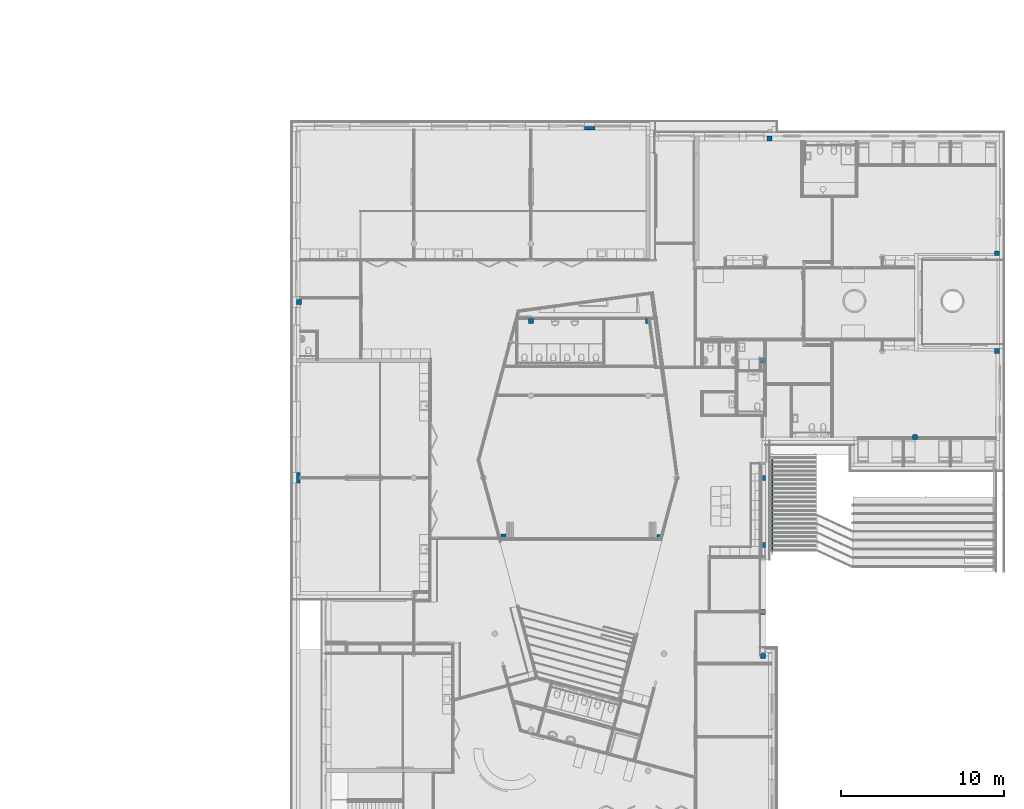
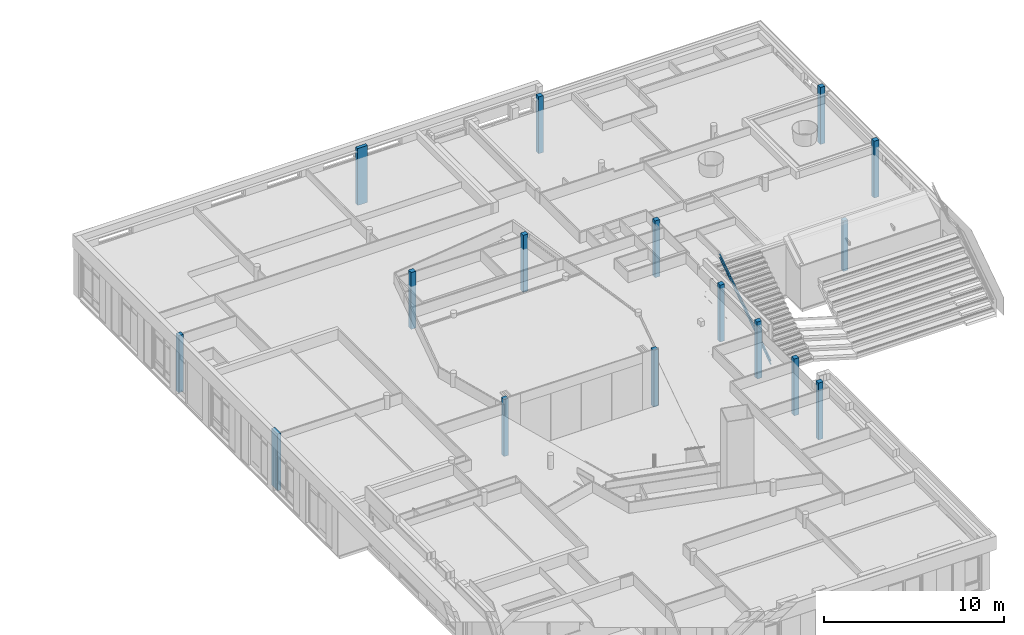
# One storey, part 1 of 167: 16 columns, 2 members, 2 elements without a shape of their own.
"""IFC2X3 building model written with IfcOpenShell, lengths in millimetres."""

from ifc_helpers import new_model, entity, si_unit, converted_unit, derived_unit, money_unit, direction, frame, origin_with_axes, place, context, subcontext, project, spatial, faceted_brep, source, transform, mapped, material, type_object, type_shapes, element, aggregate, save


model = new_model("IFC2X3")

# Units and contexts
model_context = context("Model", 3, precision=0.01, world=origin_with_axes(), true_north=direction((0.0, 1.0)))
plan_context = context("Plan", 3, precision=0.01, world=origin_with_axes(), true_north=direction((0.0, 1.0)))
body_context = subcontext(model_context, "Body", "Model", "MODEL_VIEW")
ifc_project = project(units=[si_unit("LENGTHUNIT", "METRE", prefix="MILLI"), si_unit("AREAUNIT", "SQUARE_METRE"), si_unit("VOLUMEUNIT", "CUBIC_METRE"), converted_unit("PLANEANGLEUNIT", "DEGREE", entity("IfcPlaneAngleMeasure", 0.0174532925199), si_unit("PLANEANGLEUNIT", "RADIAN"), dimensions=[0, 0, 0, 0, 0, 0, 0]), si_unit("SOLIDANGLEUNIT", "STERADIAN"), money_unit("EUR"), converted_unit("TIMEUNIT", "Year", entity("IfcTimeMeasure", 31556926.0), si_unit("TIMEUNIT", "SECOND"), dimensions=[0, 0, 1, 0, 0, 0, 0]), si_unit("MASSUNIT", "GRAM", prefix="KILO"), si_unit("THERMODYNAMICTEMPERATUREUNIT", "DEGREE_CELSIUS"), si_unit("LUMINOUSINTENSITYUNIT", "LUMEN"), si_unit("ENERGYUNIT", "JOULE", prefix="MEGA"), derived_unit("THERMALCONDUCTANCEUNIT", [(si_unit("POWERUNIT", "WATT"), 1), (si_unit("LENGTHUNIT", "METRE"), -1), (si_unit("THERMODYNAMICTEMPERATUREUNIT", "KELVIN"), -1)]), derived_unit("SPECIFICHEATCAPACITYUNIT", [(si_unit("ENERGYUNIT", "JOULE"), 1), (si_unit("MASSUNIT", "GRAM", prefix="KILO"), -1), (si_unit("THERMODYNAMICTEMPERATUREUNIT", "KELVIN"), -1)]), derived_unit("MASSDENSITYUNIT", [(si_unit("MASSUNIT", "GRAM", prefix="KILO"), 1), (si_unit("VOLUMEUNIT", "CUBIC_METRE"), -1)])], contexts=[model_context, plan_context])

# Site, building, storey
site_placement = place(None, origin_with_axes())
site = spatial("IfcSite", under=ifc_project, at=site_placement, Name="Site", CompositionType="ELEMENT")
building_placement = place(site_placement, origin_with_axes())
building = spatial("IfcBuilding", under=site, at=building_placement, Name="Naam gebouw", CompositionType="ELEMENT")
storey_placement = place(building_placement, origin_with_axes())
storey = spatial("IfcBuildingStorey", under=building, at=storey_placement, Name="Begane grond", CompositionType="ELEMENT", Elevation=0.0)

# Columns
ifc_material_1 = material(Name="Beton gewapend C")
column_type_1 = type_object("IfcColumnType", Name="Beton gewapend C 300 x 300", PredefinedType="COLUMN")
for number, where, z_axis, x_axis, name in (
    (1, (22305.9632171, 25176.5457572, -100.0), (0.0, 0.0, 1.0), (1.0, 0.0, 0.0), "28_Kolom_Kolom-x"),
    (2, (12708.0140559, 25200.0, -100.0), (0.0, 0.0, 1.0), (1.0, 0.0, 0.0), "28_Kolom_Kolom-x"),
):
    element("IfcColumn", number, at=place(storey_placement, frame(where, z_axis=z_axis, x_axis=x_axis)), inside=storey, type_object=column_type_1, material=ifc_material_1, Name=name, ObjectType="COLUMN", context=body_context, shape_type="Brep", body=[
        faceted_brep([(-150.0, -150.0, 3860.0), (-150.0, -150.0, 0.0), (150.0, -150.0, 0.0), (150.0, -150.0, 3860.0), (-150.0, 150.0, 3860.0), (-150.0, 150.0, 0.0), (150.0, 150.0, 0.0), (150.0, 150.0, 3860.0)], [[[0, 1, 2, 3]], [[4, 5, 1, 0]], [[2, 1, 5, 6]], [[3, 2, 6, 7]], [[4, 0, 3, 7]], [[7, 6, 5, 4]]]),
    ])
column_1_placement = place(storey_placement, frame((14400.0, 38449.9966284, -100.0), z_axis=(0.0, 0.0, 1.0), x_axis=(1.0, 0.0, 0.0)))
element("IfcColumn", 3, at=column_1_placement, inside=storey, type_object=column_type_1, material=ifc_material_1, Name="28_Kolom_Kolom-x", ObjectType="COLUMN", context=body_context, shape_type="Brep", body=[
    faceted_brep([(-150.015, -150.015, 3860.0), (-150.015, -150.015, 0.0), (150.015, -150.015, 0.0), (150.015, -150.015, 3860.0), (-150.015, 150.015, 3860.0), (-150.015, 150.015, 0.0), (150.015, 150.015, 0.0), (150.015, 150.015, 3860.0)], [[[0, 1, 2, 3]], [[4, 5, 1, 0]], [[2, 1, 5, 6]], [[3, 2, 6, 7]], [[4, 0, 3, 7]], [[7, 6, 5, 4]]]),
])
column_2_placement = place(storey_placement, frame((21600.0, 38449.9966284, -100.0), z_axis=(0.0, 0.0, 1.0), x_axis=(1.0, 0.0, 0.0)))
element("IfcColumn", 4, at=column_2_placement, inside=storey, type_object=column_type_1, material=ifc_material_1, Name="28_Kolom_Kolom-x", ObjectType="COLUMN", context=body_context, shape_type="Brep", body=[
    faceted_brep([(-150.000000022, -150.000000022, 3860.0), (-150.000000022, -150.000000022, 0.0), (150.000000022, -150.000000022, 0.0), (150.000000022, -150.000000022, 3860.0), (-150.000000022, 150.000000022, 3860.0), (-150.000000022, 150.000000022, 0.0), (150.000000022, 150.000000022, 0.0), (150.000000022, 150.000000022, 3860.0)], [[[0, 1, 2, 3]], [[4, 5, 1, 0]], [[2, 1, 5, 6]], [[3, 2, 6, 7]], [[4, 0, 3, 7]], [[7, 6, 5, 4]]]),
])
for number, where, z_axis, x_axis, name in (
    (5, (28650.0, 24675.0, -100.0), (0.0, 0.0, 1.0), (1.0, 0.0, 0.0), "28_Kolom_Kolom-x"),
    (6, (28650.0, 28800.0, -100.0), (0.0, 0.0, 1.0), (1.0, 0.0, 0.0), "28_Kolom_Kolom-x"),
    (7, (43050.0, 42600.0, -100.0), (0.0, 0.0, 1.0), (1.0, 0.0, 0.0), "28_Kolom_Kolom-x"),
    (8, (43050.0, 36600.0, -100.0), (0.0, 0.0, 1.0), (1.0, 0.0, 0.0), "28_Kolom_Kolom-x"),
    (9, (28650.0, 20550.0, -100.0), (0.0, 0.0, 1.0), (1.0, 0.0, 0.0), "28_Kolom_Kolom-x"),
    (10, (28650.0, 17850.0, -100.0), (0.0, 0.0, 1.0), (1.0, 0.0, 0.0), "28_Kolom_Kolom-x"),
    (11, (150.0, 39600.0, -100.0), (0.0, 0.0, 1.0), (1.0, 0.0, 0.0), "28_Kolom_Kolom-x"),
    (12, (29050.0, 49650.0000615, -100.0), (0.0, 0.0, 1.0), (1.0, 0.0, 0.0), "28_Kolom_Kolom-x"),
    (13, (28650.0, 36000.0, -100.0), (0.0, 0.0, 1.0), (1.0, 0.0, 0.0), "28_Kolom_Kolom-x"),
):
    element("IfcColumn", number, at=place(storey_placement, frame(where, z_axis=z_axis, x_axis=x_axis)), inside=storey, type_object=column_type_1, material=ifc_material_1, Name=name, ObjectType="COLUMN", context=body_context, shape_type="Brep", body=[
        faceted_brep([(-150.0, -150.0, 3860.0), (-150.0, -150.0, 0.0), (150.0, -150.0, 0.0), (150.0, -150.0, 3860.0), (-150.0, 150.0, 3860.0), (-150.0, 150.0, 0.0), (150.0, 150.0, 0.0), (150.0, 150.0, 3860.0)], [[[0, 1, 2, 3]], [[4, 5, 1, 0]], [[2, 1, 5, 6]], [[3, 2, 6, 7]], [[4, 0, 3, 7]], [[7, 6, 5, 4]]]),
    ])
column_type_2 = type_object("IfcColumnType", Name="Beton gewapend C 214 x 647", PredefinedType="COLUMN")
column_3_placement = place(storey_placement, frame((106.999426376, 28797.3, -100.0), z_axis=(0.0, 0.0, 1.0), x_axis=(1.0, 0.0, 0.0)))
element("IfcColumn", 14, at=column_3_placement, inside=storey, type_object=column_type_2, material=ifc_material_1, Name="28_Kolom_Kolom-x", ObjectType="COLUMN", context=body_context, shape_type="Brep", body=[
    faceted_brep([(-107.000573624, -323.30000005, 3860.0), (-107.000573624, -323.30000005, 0.0), (107.000573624, -323.30000005, 0.0), (107.000573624, -323.30000005, 3860.0), (-107.000573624, 323.30000005, 3860.0), (-107.000573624, 323.30000005, 0.0), (107.000573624, 323.30000005, 0.0), (107.000573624, 323.30000005, 3860.0)], [[[0, 1, 2, 3]], [[4, 5, 1, 0]], [[2, 1, 5, 6]], [[3, 2, 6, 7]], [[4, 0, 3, 7]], [[7, 6, 5, 4]]]),
])
column_type_3 = type_object("IfcColumnType", Name="Beton gewapend C 647 x 214", PredefinedType="COLUMN")
column_4_placement = place(storey_placement, frame((18000.9618907, 50293.0000022, -100.0), z_axis=(0.0, 0.0, 1.0), x_axis=(1.0, 0.0, 0.0)))
element("IfcColumn", 15, at=column_4_placement, inside=storey, type_object=column_type_3, material=ifc_material_1, Name="28_Kolom_Kolom-x", ObjectType="COLUMN", context=body_context, shape_type="Brep", body=[
    faceted_brep([(-323.302165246, -107.000002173, 3860.0), (-323.302165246, -107.000002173, 0.0), (323.302165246, -107.000002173, 0.0), (323.302165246, -107.000002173, 3860.0), (-323.302165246, 107.000002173, 3860.0), (-323.302165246, 107.000002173, 0.0), (323.302165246, 107.000002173, 0.0), (323.302165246, 107.000002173, 3860.0)], [[[0, 1, 2, 3]], [[4, 5, 1, 0]], [[2, 1, 5, 6]], [[3, 2, 6, 7]], [[4, 0, 3, 7]], [[7, 6, 5, 4]]]),
])
ifc_material_2 = material(Name="Beton gewapend prefab")
column_type_4 = type_object("IfcColumnType", Name="kolom raveling  300 x 300", PredefinedType="COLUMN")
column_5_placement = place(storey_placement, frame((38000.0, 31299.9995265, -100.0), z_axis=(0.0, 0.0, 1.0), x_axis=(1.0, 0.0, 0.0)))
element("IfcColumn", 16, at=column_5_placement, inside=storey, type_object=column_type_4, material=ifc_material_2, Name="28_Kolom_Kolom-x", ObjectType="COLUMN", context=body_context, shape_type="Brep", body=[
    faceted_brep([(-150.0, -150.0, 3425.00000075), (-150.0, -150.0, 0.0), (150.0, -150.0, 0.0), (150.0, -150.0, 3425.00000075), (-150.0, 120.0, 3425.00000075), (-150.0, 120.0, 0.0), (-119.976004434, 150.0, 0.0), (119.981937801, 150.0, 0.0), (150.0, 120.0, 0.0), (150.0, 120.0, 3425.00000075), (119.981937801, 150.0, 3425.00000075), (-119.976004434, 150.0, 3425.00000075)], [[[0, 1, 2, 3]], [[4, 5, 1, 0]], [[2, 1, 5, 6, 7, 8]], [[3, 2, 8, 9]], [[4, 0, 3, 9, 10, 11]], [[11, 6, 5, 4]], [[10, 7, 6, 11]], [[9, 8, 7, 10]]]),
])

# Railing, member
railing_type = type_object("IfcRailingType", Name="Railing Type", PredefinedType="NOTDEFINED")
railing_1_placement = place(storey_placement, frame((29074.0, 24308.0128651, 180.0), z_axis=(0.0, 0.0, 1.0), x_axis=(-1.0, 0.0, 0.0)))
railing_1 = element("IfcRailing", 17, at=railing_1_placement, inside=storey, type_object=railing_type, Name="34_Reling_Reling-x", PredefinedType="NOTDEFINED")
ifc_material_3 = material(Name="Metaal - RVS")
member_type = type_object("IfcMemberType", Name="IfcMember", PredefinedType="USERDEFINED")
shared_shape = source(origin_with_axes(), body_context, "Body", "Brep", [
    faceted_brep([(125.0, 0.0, 900.0), (125.0, 11.0940039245, 883.358994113), (125.0, 5681.09400392, 4663.35899411), (125.0, 5670.0, 4680.0), (75.0, 0.0, 900.0), (75.0, 11.0940039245, 883.358994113), (116.0, 4.99230176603, 892.511547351), (116.0, 6.10170215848, 890.847446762), (84.0, 6.10170215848, 890.847446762), (84.0, 4.99230176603, 892.511547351), (75.0, 5681.09400392, 4663.35899411), (75.0, 5670.0, 4680.0), (116.0, 5674.99230177, 4672.51154735), (84.0, 5674.99230177, 4672.51154735), (84.0, 5676.10170216, 4670.84744676), (116.0, 5676.10170216, 4670.84744676)], [[[0, 1, 2, 3]], [[0, 4, 5, 1], [6, 7, 8, 9]], [[1, 5, 10, 2]], [[3, 2, 10, 11], [12, 13, 14, 15]], [[4, 0, 3, 11]], [[5, 4, 11, 10]], [[7, 6, 12, 15]], [[8, 7, 15, 14]], [[9, 8, 14, 13]], [[6, 9, 13, 12]]]),
])
type_shapes(member_type, [shared_shape])
member_1_placement = place(railing_1_placement, frame((-150.0, -2785.10001358, 867.984378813), z_axis=(0.0, 0.0, 1.0), x_axis=(-1.0, 0.0, 0.0)))
member_1 = element("IfcMember", 18, at=member_1_placement, type_object=member_type, material=ifc_material_3, Name="_Reling - regel_Handregel-x", context=body_context, shape_type="MappedRepresentation", body=[
    mapped(shared_shape, transform((-100.0, -2835.0, -867.984378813))),
])
aggregate(railing_1, [member_1])

railing_2_placement = place(storey_placement, frame((29074.0, 24308.0128651, -70.0), z_axis=(0.0, 0.0, 1.0), x_axis=(-1.0, 0.0, 0.0)))
railing_2 = element("IfcRailing", 19, at=railing_2_placement, inside=storey, type_object=railing_type, Name="34_Reling_Reling-x", PredefinedType="NOTDEFINED")
member_2_placement = place(railing_2_placement, frame((-150.0, -2785.10001358, 867.984378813), z_axis=(0.0, 0.0, 1.0), x_axis=(-1.0, 0.0, 0.0)))
member_2 = element("IfcMember", 20, at=member_2_placement, type_object=member_type, material=ifc_material_3, Name="_Reling - regel_Handregel-x", context=body_context, shape_type="MappedRepresentation", body=[
    mapped(shared_shape, transform((-100.0, -2835.0, -867.984378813))),
])
aggregate(railing_2, [member_2])

save(model, "model.ifc")
